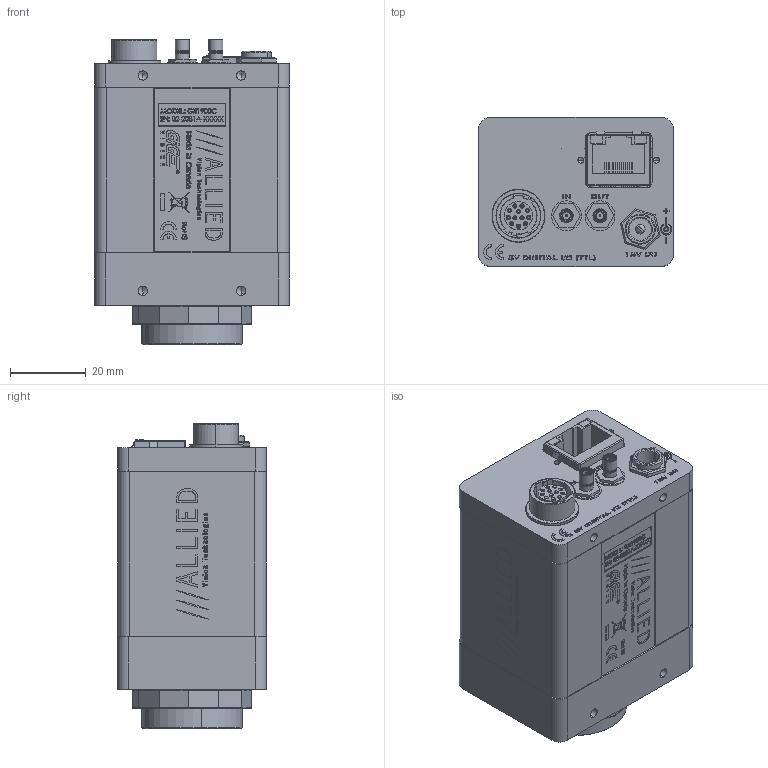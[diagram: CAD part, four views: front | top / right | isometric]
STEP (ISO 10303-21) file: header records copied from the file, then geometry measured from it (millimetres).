
FILE_DESCRIPTION (( 'STEP AP214' ), '1' );
FILE_NAME ('GE1900C.STEP', '2013-07-31T21:41:14', ( '' ), ( '' ), 'SwSTEP 2.0', 'SolidWorks 2013', '' );
FILE_SCHEMA (( 'AUTOMOTIVE_DESIGN' ));
Length unit declared in the file: millimetre
Products named in the file (37): 740050A-A GE1900C LABEL PRINT; 260014-SWITCHCRAFT PC712A; 140007-screw socket head cap #4-40x2; 140002-KEYSTONE 349; 140008-washer spring lock #4; 260010-HIROSE HR10A-10R-12SB WASHER; 100000AA-CV SMB GROUNDING ASSEMBLY; 110036B GE COVER EXTRUDED SHORT WITH LOGO_Finished; GE1900C; 270006-JUMPER WIRE MODIFIED; 740031B-GE SERIES LABEL; 140001-AMPHENOL 903-10409-1; 100137A - GE CAMERA BACK ASSEMBLY - for GE KODAK 1M2M; 260010-HIROSE HR10A-10R-12SB NUT; 140015-screw pan head phillips 4-40 x 0.1875; 100095A - GE1900C FRONT ASSY; 220106-KODAK KAI-2093CM; 200031B-A GE INTERFACE PCB ASSY; KODAK KAI-2093 BODY; 260029 BELFUSE 0826-1C1T-23; KODAK KAI-2093 WINDOW; 100051B - GE BACKPLATE ASSY; 110003AC-CV CMOUNT RING; 110033B-C GE BACK PLATE; 110031A-B EC-CCD LOCKING RING; 140034-SWITCHCRAFT P10149 WITH WIRE; 110046A-GE KODAK 2M FRONT PLATE; 140034-SWITCHCRAFT P10149; 110053AA-GE KODAK 2M CCD DUST SHIELD GASKET; 270006-JUMPER WIRE 18MM LONG; 260009-AMPHENOL 903-406J-51R; 100097A-IR FILTER ASSEMBLY 0.75 INCH; 140000-AMPHENOL 903-10408-1; 440002-IR CUT FILTER 22MM DIA; 260010-HIROSE HR10A-10R-12SB; 110054AB-IR FILTER SUPPORT; 260014-SWITCHCRAFT PC712A NUT
Assembly tree (50 placements, depth 5):
  GE1900C
    140008-washer spring lock #4  x4
    140007-screw socket head cap #4-40x2  x4
    740050A-A GE1900C LABEL PRINT
    100095A - GE1900C FRONT ASSY
      100097A-IR FILTER ASSEMBLY 0.75 INCH
        110054AB-IR FILTER SUPPORT
        440002-IR CUT FILTER 22MM DIA
      110053AA-GE KODAK 2M CCD DUST SHIELD GASKET
      110046A-GE KODAK 2M FRONT PLATE
      110031A-B EC-CCD LOCKING RING
      110003AC-CV CMOUNT RING
      220106-KODAK KAI-2093CM
        KODAK KAI-2093 WINDOW
        KODAK KAI-2093 BODY
    100137A - GE CAMERA BACK ASSEMBLY - for GE KODAK 1M2M
      140008-washer spring lock #4  x2
      100051B - GE BACKPLATE ASSY
        260010-HIROSE HR10A-10R-12SB NUT
        100000AA-CV SMB GROUNDING ASSEMBLY  x2
          140001-AMPHENOL 903-10409-1
          270006-JUMPER WIRE MODIFIED
        260010-HIROSE HR10A-10R-12SB WASHER
        140002-KEYSTONE 349  x4
        260014-SWITCHCRAFT PC712A
        260014-SWITCHCRAFT PC712A NUT
        260010-HIROSE HR10A-10R-12SB
        140000-AMPHENOL 903-10408-1  x2
        260009-AMPHENOL 903-406J-51R  x2
        140034-SWITCHCRAFT P10149 WITH WIRE
          270006-JUMPER WIRE 18MM LONG
          140034-SWITCHCRAFT P10149
        110033B-C GE BACK PLATE
      200031B-A GE INTERFACE PCB ASSY
        260029 BELFUSE 0826-1C1T-23
      140015-screw pan head phillips 4-40 x 0.1875
    740031B-GE SERIES LABEL
    110036B GE COVER EXTRUDED SHORT WITH LOGO_Finished
Bounding box: 51.56 x 39.37 x 80.85 mm (x, y, z)
Volume: 48650.6 mm3; surface area: 69344 mm2
Topology: 74 solids, 74 shells, 4081 faces, 10427 edges, 6787 vertices
Faces by surface type: plane 2339, bspline 905, cylinder 585, cone 252
Entity records: 192722 total; most frequent: CARTESIAN_POINT 59960, ORIENTED_EDGE 19708, DIRECTION 15432, EDGE_CURVE 9854, LINE 6820, VECTOR 6820, VERTEX_POINT 6445, AXIS2_PLACEMENT_3D 4306
